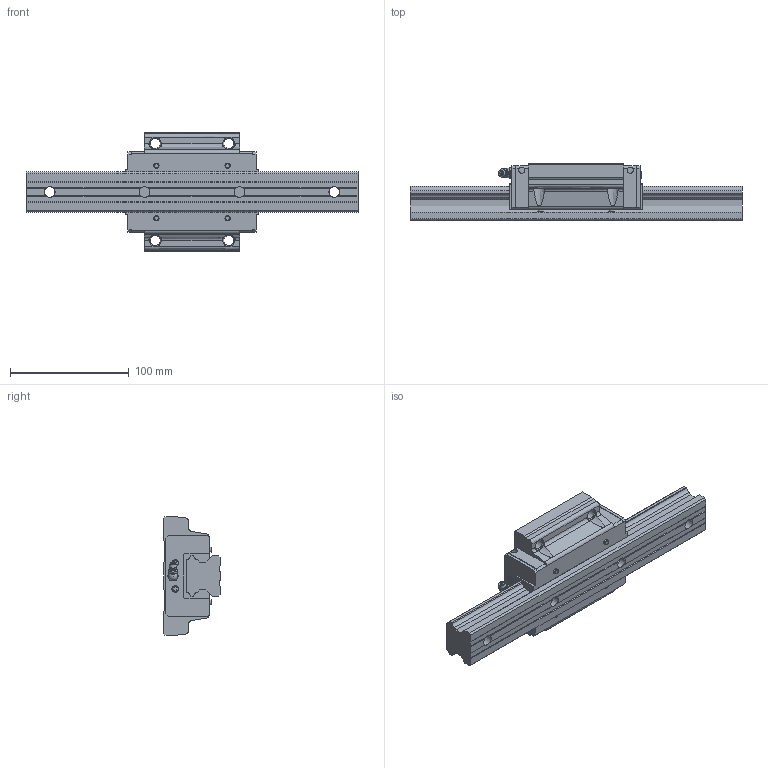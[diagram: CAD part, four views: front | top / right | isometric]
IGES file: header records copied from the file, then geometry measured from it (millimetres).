
Start section: Data from Parasolid IGES Translator 26.0.171, Copyright(c) 2006 Siemens PLM Software. All Rights Reserved.
Global section: file name: HSR35M1A1SS-280L_G20_0_B-M6F_84_0_0_0_1.igs; native system: By Siemens PLM Incorporated; preprocessor: XPlus GENERIC/IGES 26.0.171; author: Noname; organization: Noname; date: 20240523.060917; units: millimetre
Bounding box: 280 x 48 x 100 mm (x, y, z)
Surface area: 83251.6 mm2 (no closed solid volume)
Topology: 0 solids, 0 shells, 289 faces, 1584 edges, 1515 vertices
Faces by surface type: extrusion 202, revolution 87
